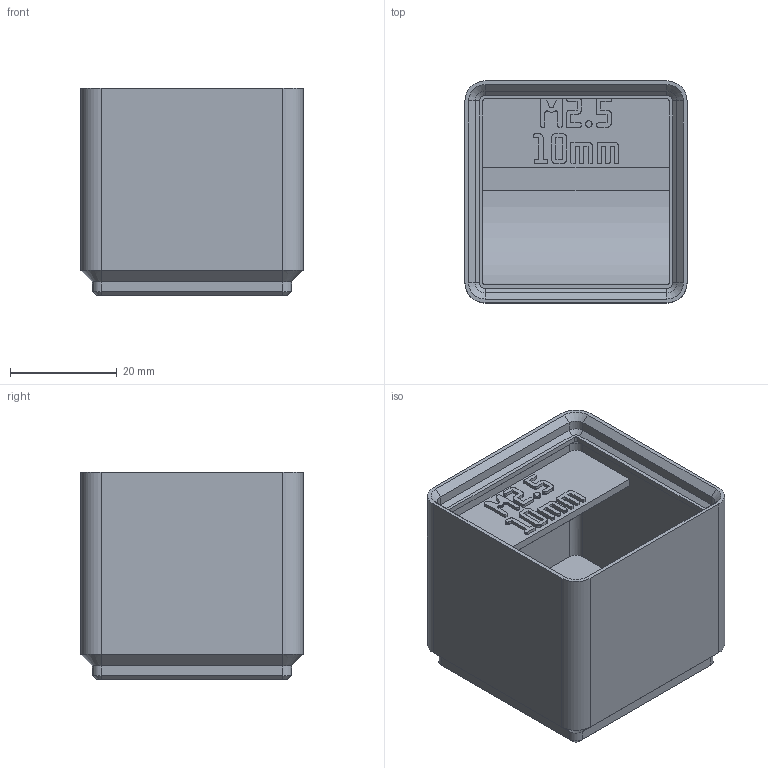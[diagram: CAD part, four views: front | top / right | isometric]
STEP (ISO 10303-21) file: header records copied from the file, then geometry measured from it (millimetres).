
FILE_DESCRIPTION(('Open CASCADE Model'),'2;1');
FILE_NAME('Open CASCADE Shape Model','2026-11-03T10:23:23',('Author'),( 'Open CASCADE'),'Open CASCADE STEP processor 8.0','build123d', 'Unknown');
FILE_SCHEMA(('AUTOMOTIVE_DESIGN { 1 0 10303 214 1 1 1 1 }'));
Products named in the file (1): COMPOUND
Bounding box: 41.5 x 41.5 x 38.8 mm (x, y, z)
Volume: 28182.9 mm3; surface area: 14262.1 mm2
Topology: 1 solids, 1 shells, 802 faces, 2311 edges, 1522 vertices
Faces by surface type: plane 759, cylinder 23, cone 20
Entity records: 54358 total; most frequent: CARTESIAN_POINT 11104, DIRECTION 6969, LINE 5235, VECTOR 5235, ORIENTED_EDGE 4622, PCURVE 4622, DEFINITIONAL_REPRESENTATION 4622, EDGE_CURVE 2311
